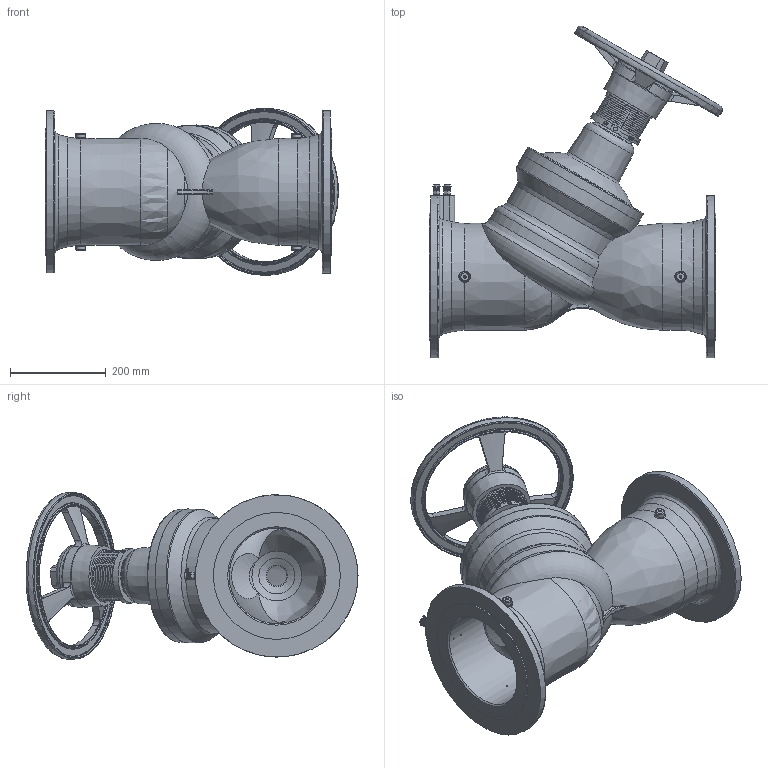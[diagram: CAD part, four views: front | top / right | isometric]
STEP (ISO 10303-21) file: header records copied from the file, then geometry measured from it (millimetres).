
FILE_DESCRIPTION((''),'2;1');
FILE_NAME('P:\Fastrack\53972_CRANE 3D\DM921-941\WORKSPACE\DM941_DN200\DM941_DN200.stp','2011-01-18T14:42:56',('btaylor'),(''),'Autodesk Inventor 2008','Autodesk Inventor 2008','');
FILE_SCHEMA(('AUTOMOTIVE_DESIGN { 1 0 10303 214 1 1 1 1 }'));
Length unit declared in the file: millimetre
Products named in the file (1): DM941_DN200
Bounding box: 614.11 x 695.31 x 349.88 mm (x, y, z)
Volume: 13713546.3 mm3; surface area: 1785363.6 mm2
Topology: 1 solids, 3 shells, 1043 faces, 2716 edges, 1755 vertices
Faces by surface type: plane 421, bspline 310, cylinder 177, cone 90, torus 43, sphere 2
Full cylindrical faces by diameter (mm): 7.4 x2, 8 x2, 9.5 x10, 11 x2, 12.7 x2, 13.7 x2, 20 x4, 32 x1, 33 x1, 34 x1, 45.8 x1, 46.1 x1, 46.8 x1, 63 x1, 73.7 x1, 84 x1, 92 x1, 93.004 x1, 98 x1, 110 x1, 114 x1, 200 x1, 221 x1, 223.99 x1, 240 x1, 266 x2, 339.983 x1
Entity records: 94811 total; most frequent: CARTESIAN_POINT 71258, ORIENTED_EDGE 5030, DIRECTION 3694, EDGE_CURVE 2515, VERTEX_POINT 1704, AXIS2_PLACEMENT_3D 1357, EDGE_LOOP 1302, STYLED_ITEM 1044
